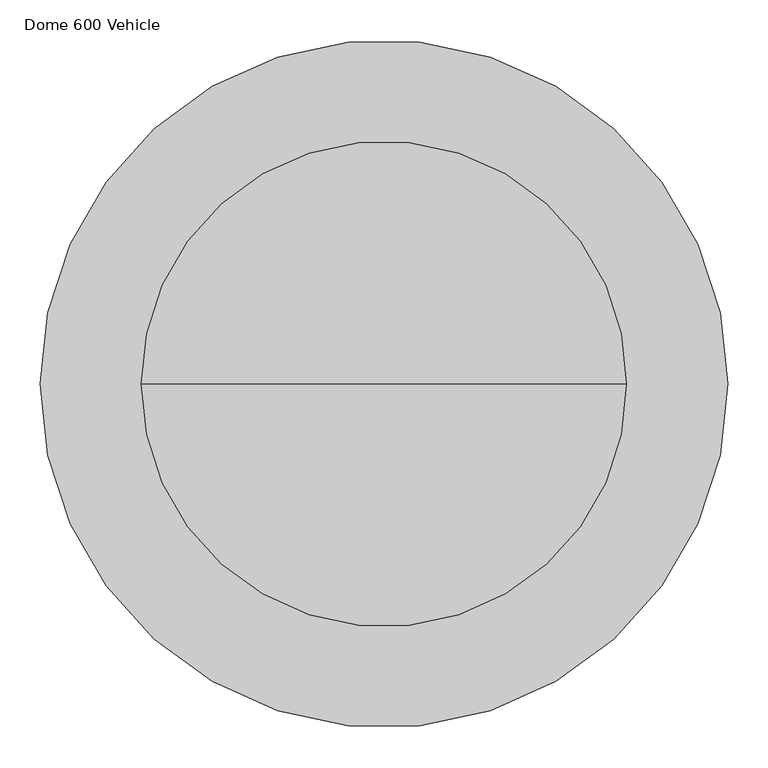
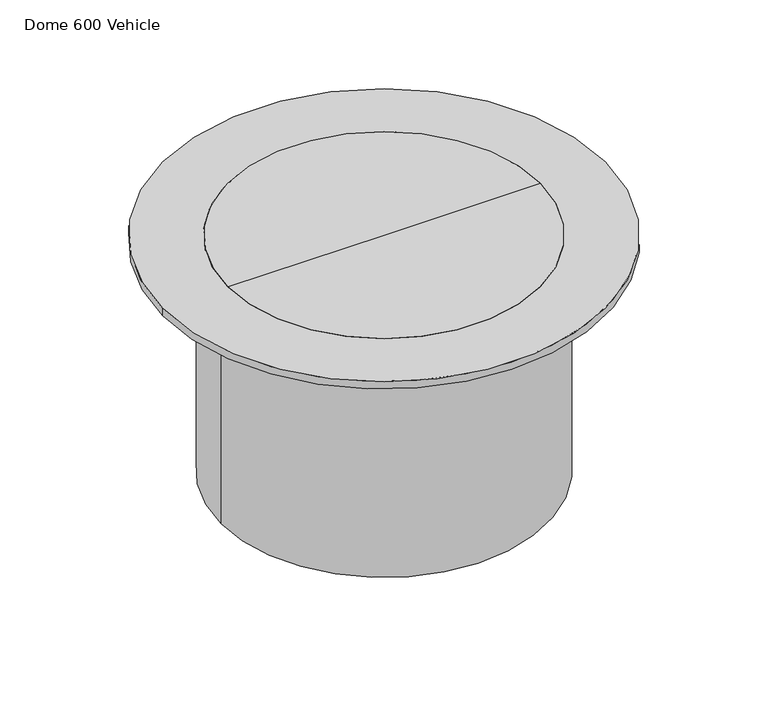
"""IFC4 building model written with IfcOpenShell, lengths in millimetres: proxy geometry, GRAF Tele Dome 600 Vehicle : Dome 600 Vehicle."""

from ifc_helpers import new_model, si_unit, point, frame, origin, origin_2d, place, context, project, spatial, polyline, circle_curve, trimmed, segment, composite_curve, outline, extrude, source, transform, mapped, element, save
from ifc_brep_helpers import plane_surface, cylinder_surface, advanced_brep


def dome_600_vehicle_504724ee(model_context):
    return source(origin(), model_context, "Body", "SolidModel", [
        advanced_brep(
        [(0.0, 0.0, -14.9500624), (-300.0, 0.0, -14.9500624), (300.0, 0.0, -14.9500624), (-300.0, 0.0, 0.0), (300.0, 0.0, 0.0), (0.0, 0.0, 0.0)],
        [
            (0, 1),
            (1, 2, circle_curve(frame((0.0, 0.0, -14.9500624), z_axis=(0.0, 0.0, -1.0), x_axis=(-1.0, 0.0, 0.0)), 300.0)),
            (2, 0),
            (2, 1, circle_curve(frame((0.0, 0.0, -14.9500624), z_axis=(0.0, 0.0, -1.0), x_axis=(-1.0, 0.0, 0.0)), 300.0)),
            (1, 3),
            (3, 4, circle_curve(frame((0.0, 0.0, 0.0), z_axis=(0.0, 0.0, -1.0), x_axis=(-1.0, 0.0, 0.0)), 300.0)),
            (4, 2),
            (4, 3, circle_curve(frame((0.0, 0.0, 0.0), z_axis=(0.0, 0.0, -1.0), x_axis=(-1.0, 0.0, 0.0)), 300.0)),
            (3, 5),
            (5, 4),
        ],
        [
            plane_surface(frame((0.0, 0.0, -14.9500624), z_axis=(0.0, 0.0, -1.0), x_axis=(-1.0, 0.0, 0.0))),
            cylinder_surface(frame((0.0, 0.0, -119.9500624), z_axis=(0.0, 0.0, -1.0), x_axis=(-1.0, 0.0, 0.0)), 300.0),
            plane_surface(frame((0.0, 0.0, 0.0), z_axis=(0.0, 0.0, 1.0), x_axis=(-1.0, 0.0, 0.0))),
        ],
        [
            (0, [[1, 2, 3]]),
            (0, [[-3, 4, -1]]),
            (1, [[-2, 5, 6, 7]]),
            (1, [[-4, -7, 8, -5]]),
            (2, [[-6, 9, 10]]),
            (2, [[-8, -10, -9]]),
        ],
    ),
        extrude(outline(composite_curve([segment(trimmed(circle_curve(origin_2d(), 313.0), [point((-313.0, 0.0))], [point((313.0, 0.0))], False, "CARTESIAN"), True, "CONTINUOUS"), segment(trimmed(circle_curve(origin_2d(), 313.0), [point((313.0, 0.0))], [point((-313.0, 0.0))], False, "CARTESIAN"), True, "CONTINUOUS")], self_intersect=False), holes=[composite_curve([segment(trimmed(circle_curve(origin_2d(), 300.0), [point((-300.0, 0.0))], [point((300.0, 0.0))], True, "CARTESIAN"), True, "CONTINUOUS"), segment(trimmed(circle_curve(origin_2d(), 300.0), [point((300.0, 0.0))], [point((-300.0, 0.0))], True, "CARTESIAN"), True, "CONTINUOUS")], self_intersect=False)]), frame((0.0, 0.0, -476.0), z_axis=(0.0, 0.0, 1.0), x_axis=(1.0, 0.0, 0.0)), (0.0, 0.0, 1.0), 461.0499376),
        extrude(outline(composite_curve([segment(trimmed(circle_curve(origin_2d(), 425.0), [point((-425.0, 0.0))], [point((425.0, 0.0))], False, "CARTESIAN"), True, "CONTINUOUS"), segment(trimmed(circle_curve(origin_2d(), 425.0), [point((425.0, 0.0))], [point((-425.0, 0.0))], False, "CARTESIAN"), True, "CONTINUOUS")], self_intersect=False), holes=[composite_curve([segment(trimmed(circle_curve(origin_2d(), 300.0), [point((-300.0, 0.0))], [point((300.0, 0.0))], True, "CARTESIAN"), True, "CONTINUOUS"), segment(trimmed(circle_curve(origin_2d(), 300.0), [point((300.0, 0.0))], [point((-300.0, 0.0))], True, "CARTESIAN"), True, "CONTINUOUS")], self_intersect=False)]), frame((0.0, 0.0, -14.9500624), z_axis=(0.0, 0.0, 1.0), x_axis=(1.0, 0.0, 0.0)), (0.0, 0.0, 1.0), 14.9500624),
        extrude(outline(composite_curve([segment(trimmed(circle_curve(origin_2d(), 313.0), [point((-260.5755532, -173.4052511))], [point((-208.7240033, -233.2451295))], True, "CARTESIAN"), True, "CONTINUOUS"), segment(polyline([(-208.7240033, -233.2451295), (-225.0974564, -252.1411016)]), True, "CONTINUOUS"), segment(trimmed(circle_curve(origin_2d(), 338.0), [point((-225.0974564, -252.1411016))], [point((-281.6093769, -186.9228688))], False, "CARTESIAN"), True, "CONTINUOUS"), segment(polyline([(-281.6093769, -186.9228688), (-260.5755532, -173.4052511)]), True, "CONTINUOUS")], self_intersect=False)), frame((0.0, 0.0, -40.0), z_axis=(0.0, 0.0, 1.0), x_axis=(1.0, 0.0, 0.0)), (0.0, 0.0, 1.0), 25.0499376),
        extrude(outline(composite_curve([segment(polyline([(-265.9819613, -164.9927157), (-287.015785, -178.5103334)]), True, "CONTINUOUS"), segment(trimmed(circle_curve(origin_2d(), 338.0), [point((-287.015785, -178.5103334))], [point((-322.8644761, -100.0126494))], False, "CARTESIAN"), True, "CONTINUOUS"), segment(polyline([(-322.8644761, -100.0126494), (-298.8743171, -92.9685031)]), True, "CONTINUOUS"), segment(trimmed(circle_curve(origin_2d(), 313.0), [point((-298.8743171, -92.9685031))], [point((-265.9819613, -164.9927157))], True, "CARTESIAN"), True, "CONTINUOUS")], self_intersect=False)), frame((0.0, 0.0, -40.0), z_axis=(0.0, 0.0, 1.0), x_axis=(1.0, 0.0, 0.0)), (0.0, 0.0, 1.0), 25.0499376),
        extrude(outline(composite_curve([segment(polyline([(-312.9600613, 5.0), (-337.9630157, 5.0)]), True, "CONTINUOUS"), segment(trimmed(circle_curve(origin_2d(), 338.0), [point((-337.9630157, 5.0))], [point((-325.6818017, 90.4177197))], False, "CARTESIAN"), True, "CONTINUOUS"), segment(polyline([(-325.6818017, 90.4177197), (-301.6916427, 83.3735734)]), True, "CONTINUOUS"), segment(trimmed(circle_curve(origin_2d(), 313.0), [point((-301.6916427, 83.3735734))], [point((-312.9600613, 5.0))], True, "CARTESIAN"), True, "CONTINUOUS")], self_intersect=False)), frame((0.0, 0.0, -40.0), z_axis=(0.0, 0.0, 1.0), x_axis=(1.0, 0.0, 0.0)), (0.0, 0.0, 1.0), 25.0499376),
        extrude(outline(composite_curve([segment(trimmed(circle_curve(origin_2d(), 313.0), [point((-312.9600613, -5.0))], [point((-301.6916427, -83.3735734))], True, "CARTESIAN"), True, "CONTINUOUS"), segment(polyline([(-301.6916427, -83.3735734), (-325.6818017, -90.4177197)]), True, "CONTINUOUS"), segment(trimmed(circle_curve(origin_2d(), 338.0), [point((-325.6818017, -90.4177197))], [point((-337.9630157, -5.0))], False, "CARTESIAN"), True, "CONTINUOUS"), segment(polyline([(-337.9630157, -5.0), (-312.9600613, -5.0)]), True, "CONTINUOUS")], self_intersect=False)), frame((0.0, 0.0, -40.0), z_axis=(0.0, 0.0, 1.0), x_axis=(1.0, 0.0, 0.0)), (0.0, 0.0, 1.0), 25.0499376),
        extrude(outline(composite_curve([segment(trimmed(circle_curve(origin_2d(), 313.0), [point((-265.9819613, 164.9927157))], [point((-298.8743171, 92.9685031))], True, "CARTESIAN"), True, "CONTINUOUS"), segment(polyline([(-298.8743171, 92.9685031), (-322.8644761, 100.0126494)]), True, "CONTINUOUS"), segment(trimmed(circle_curve(origin_2d(), 338.0), [point((-322.8644761, 100.0126494))], [point((-287.015785, 178.5103334))], False, "CARTESIAN"), True, "CONTINUOUS"), segment(polyline([(-287.015785, 178.5103334), (-265.9819613, 164.9927157)]), True, "CONTINUOUS")], self_intersect=False)), frame((0.0, 0.0, -40.0), z_axis=(0.0, 0.0, 1.0), x_axis=(1.0, 0.0, 0.0)), (0.0, 0.0, 1.0), 25.0499376),
        extrude(outline(composite_curve([segment(polyline([(-260.5755532, 173.4052511), (-281.6093769, 186.9228688)]), True, "CONTINUOUS"), segment(trimmed(circle_curve(origin_2d(), 338.0), [point((-281.6093769, 186.9228688))], [point((-225.0974564, 252.1411016))], False, "CARTESIAN"), True, "CONTINUOUS"), segment(polyline([(-225.0974564, 252.1411016), (-208.7240033, 233.2451295)]), True, "CONTINUOUS"), segment(trimmed(circle_curve(origin_2d(), 313.0), [point((-208.7240033, 233.2451295))], [point((-260.5755532, 173.4052511))], True, "CARTESIAN"), True, "CONTINUOUS")], self_intersect=False)), frame((0.0, 0.0, -40.0), z_axis=(0.0, 0.0, 1.0), x_axis=(1.0, 0.0, 0.0)), (0.0, 0.0, 1.0), 25.0499376),
        extrude(outline(composite_curve([segment(polyline([(208.7240033, 233.2451295), (225.0974564, 252.1411016)]), True, "CONTINUOUS"), segment(trimmed(circle_curve(origin_2d(), 338.0), [point((225.0974564, 252.1411016))], [point((281.6093769, 186.9228688))], False, "CARTESIAN"), True, "CONTINUOUS"), segment(polyline([(281.6093769, 186.9228688), (260.5755532, 173.4052511)]), True, "CONTINUOUS"), segment(trimmed(circle_curve(origin_2d(), 313.0), [point((260.5755532, 173.4052511))], [point((208.7240033, 233.2451295))], True, "CARTESIAN"), True, "CONTINUOUS")], self_intersect=False)), frame((0.0, 0.0, -40.0), z_axis=(0.0, 0.0, 1.0), x_axis=(1.0, 0.0, 0.0)), (0.0, 0.0, 1.0), 25.0499376),
        extrude(outline(composite_curve([segment(trimmed(circle_curve(origin_2d(), 313.0), [point((201.1665076, 239.7937368))], [point((134.5564679, 282.60141))], True, "CARTESIAN"), True, "CONTINUOUS"), segment(polyline([(134.5564679, 282.60141), (144.9430705, 305.3448973)]), True, "CONTINUOUS"), segment(trimmed(circle_curve(origin_2d(), 338.0), [point((144.9430705, 305.3448973))], [point((217.5399607, 258.689709))], False, "CARTESIAN"), True, "CONTINUOUS"), segment(polyline([(217.5399607, 258.689709), (201.1665076, 239.7937368)]), True, "CONTINUOUS")], self_intersect=False)), frame((0.0, 0.0, -40.0), z_axis=(0.0, 0.0, 1.0), x_axis=(1.0, 0.0, 0.0)), (0.0, 0.0, 1.0), 25.0499376),
        extrude(outline(composite_curve([segment(trimmed(circle_curve(origin_2d(), 313.0), [point((39.5897533, 310.4861534))], [point((-39.5897533, 310.4861534))], True, "CARTESIAN"), True, "CONTINUOUS"), segment(polyline([(-39.5897533, 310.4861534), (-43.1480447, 335.2346137)]), True, "CONTINUOUS"), segment(trimmed(circle_curve(origin_2d(), 338.0), [point((-43.1480447, 335.2346137))], [point((43.1480447, 335.2346137))], False, "CARTESIAN"), True, "CONTINUOUS"), segment(polyline([(43.1480447, 335.2346137), (39.5897533, 310.4861534)]), True, "CONTINUOUS")], self_intersect=False)), frame((0.0, 0.0, -40.0), z_axis=(0.0, 0.0, 1.0), x_axis=(1.0, 0.0, 0.0)), (0.0, 0.0, 1.0), 25.0499376),
        extrude(outline(composite_curve([segment(polyline([(49.4879677, 309.063005), (53.0462591, 333.8114653)]), True, "CONTINUOUS"), segment(trimmed(circle_curve(origin_2d(), 338.0), [point((53.0462591, 333.8114653))], [point((135.8467506, 309.4990474))], False, "CARTESIAN"), True, "CONTINUOUS"), segment(polyline([(135.8467506, 309.4990474), (125.460148, 286.7555601)]), True, "CONTINUOUS"), segment(trimmed(circle_curve(origin_2d(), 313.0), [point((125.460148, 286.7555601))], [point((49.4879677, 309.063005))], True, "CARTESIAN"), True, "CONTINUOUS")], self_intersect=False)), frame((0.0, 0.0, -40.0), z_axis=(0.0, 0.0, 1.0), x_axis=(1.0, 0.0, 0.0)), (0.0, 0.0, 1.0), 25.0499376),
        extrude(outline(composite_curve([segment(polyline([(-125.460148, 286.7555601), (-135.8467506, 309.4990474)]), True, "CONTINUOUS"), segment(trimmed(circle_curve(origin_2d(), 338.0), [point((-135.8467506, 309.4990474))], [point((-53.0462591, 333.8114653))], False, "CARTESIAN"), True, "CONTINUOUS"), segment(polyline([(-53.0462591, 333.8114653), (-49.4879677, 309.063005)]), True, "CONTINUOUS"), segment(trimmed(circle_curve(origin_2d(), 313.0), [point((-49.4879677, 309.063005))], [point((-125.460148, 286.7555601))], True, "CARTESIAN"), True, "CONTINUOUS")], self_intersect=False)), frame((0.0, 0.0, -40.0), z_axis=(0.0, 0.0, 1.0), x_axis=(1.0, 0.0, 0.0)), (0.0, 0.0, 1.0), 25.0499376),
        extrude(outline(composite_curve([segment(trimmed(circle_curve(origin_2d(), 313.0), [point((-134.5564679, 282.60141))], [point((-201.1665076, 239.7937368))], True, "CARTESIAN"), True, "CONTINUOUS"), segment(polyline([(-201.1665076, 239.7937368), (-217.5399607, 258.689709)]), True, "CONTINUOUS"), segment(trimmed(circle_curve(origin_2d(), 338.0), [point((-217.5399607, 258.689709))], [point((-144.9430705, 305.3448973))], False, "CARTESIAN"), True, "CONTINUOUS"), segment(polyline([(-144.9430705, 305.3448973), (-134.5564679, 282.60141)]), True, "CONTINUOUS")], self_intersect=False)), frame((0.0, 0.0, -40.0), z_axis=(0.0, 0.0, 1.0), x_axis=(1.0, 0.0, 0.0)), (0.0, 0.0, 1.0), 25.0499376),
        extrude(outline(composite_curve([segment(trimmed(circle_curve(origin_2d(), 313.0), [point((298.8743171, 92.9685031))], [point((265.9819613, 164.9927157))], True, "CARTESIAN"), True, "CONTINUOUS"), segment(polyline([(265.9819613, 164.9927157), (287.015785, 178.5103334)]), True, "CONTINUOUS"), segment(trimmed(circle_curve(origin_2d(), 338.0), [point((287.015785, 178.5103334))], [point((322.8644761, 100.0126494))], False, "CARTESIAN"), True, "CONTINUOUS"), segment(polyline([(322.8644761, 100.0126494), (298.8743171, 92.9685031)]), True, "CONTINUOUS")], self_intersect=False)), frame((0.0, 0.0, -40.0), z_axis=(0.0, 0.0, 1.0), x_axis=(1.0, 0.0, 0.0)), (0.0, 0.0, 1.0), 25.0499376),
        extrude(outline(composite_curve([segment(polyline([(301.6916427, 83.3735734), (325.6818017, 90.4177197)]), True, "CONTINUOUS"), segment(trimmed(circle_curve(origin_2d(), 338.0), [point((325.6818017, 90.4177197))], [point((337.9630157, 5.0))], False, "CARTESIAN"), True, "CONTINUOUS"), segment(polyline([(337.9630157, 5.0), (312.9600613, 5.0)]), True, "CONTINUOUS"), segment(trimmed(circle_curve(origin_2d(), 313.0), [point((312.9600613, 5.0))], [point((301.6916427, 83.3735734))], True, "CARTESIAN"), True, "CONTINUOUS")], self_intersect=False)), frame((0.0, 0.0, -40.0), z_axis=(0.0, 0.0, 1.0), x_axis=(1.0, 0.0, 0.0)), (0.0, 0.0, 1.0), 25.0499376),
        extrude(outline(composite_curve([segment(polyline([(298.8743171, -92.9685031), (322.8644761, -100.0126494)]), True, "CONTINUOUS"), segment(trimmed(circle_curve(origin_2d(), 338.0), [point((322.8644761, -100.0126494))], [point((287.015785, -178.5103334))], False, "CARTESIAN"), True, "CONTINUOUS"), segment(polyline([(287.015785, -178.5103334), (265.9819613, -164.9927157)]), True, "CONTINUOUS"), segment(trimmed(circle_curve(origin_2d(), 313.0), [point((265.9819613, -164.9927157))], [point((298.8743171, -92.9685031))], True, "CARTESIAN"), True, "CONTINUOUS")], self_intersect=False)), frame((0.0, 0.0, -40.0), z_axis=(0.0, 0.0, 1.0), x_axis=(1.0, 0.0, 0.0)), (0.0, 0.0, 1.0), 25.0499376),
        extrude(outline(composite_curve([segment(trimmed(circle_curve(origin_2d(), 313.0), [point((301.6916427, -83.3735734))], [point((312.9600613, -5.0))], True, "CARTESIAN"), True, "CONTINUOUS"), segment(polyline([(312.9600613, -5.0), (337.9630157, -5.0)]), True, "CONTINUOUS"), segment(trimmed(circle_curve(origin_2d(), 338.0), [point((337.9630157, -5.0))], [point((325.6818017, -90.4177197))], False, "CARTESIAN"), True, "CONTINUOUS"), segment(polyline([(325.6818017, -90.4177197), (301.6916427, -83.3735734)]), True, "CONTINUOUS")], self_intersect=False)), frame((0.0, 0.0, -40.0), z_axis=(0.0, 0.0, 1.0), x_axis=(1.0, 0.0, 0.0)), (0.0, 0.0, 1.0), 25.0499376),
        extrude(outline(composite_curve([segment(trimmed(circle_curve(origin_2d(), 313.0), [point((208.7240033, -233.2451295))], [point((260.5755532, -173.4052511))], True, "CARTESIAN"), True, "CONTINUOUS"), segment(polyline([(260.5755532, -173.4052511), (281.6093769, -186.9228688)]), True, "CONTINUOUS"), segment(trimmed(circle_curve(origin_2d(), 338.0), [point((281.6093769, -186.9228688))], [point((225.0974564, -252.1411016))], False, "CARTESIAN"), True, "CONTINUOUS"), segment(polyline([(225.0974564, -252.1411016), (208.7240033, -233.2451295)]), True, "CONTINUOUS")], self_intersect=False)), frame((0.0, 0.0, -40.0), z_axis=(0.0, 0.0, 1.0), x_axis=(1.0, 0.0, 0.0)), (0.0, 0.0, 1.0), 25.0499376),
        extrude(outline(composite_curve([segment(polyline([(201.1665076, -239.7937368), (217.5399607, -258.689709)]), True, "CONTINUOUS"), segment(trimmed(circle_curve(origin_2d(), 338.0), [point((217.5399607, -258.689709))], [point((144.9430705, -305.3448973))], False, "CARTESIAN"), True, "CONTINUOUS"), segment(polyline([(144.9430705, -305.3448973), (134.5564679, -282.60141)]), True, "CONTINUOUS"), segment(trimmed(circle_curve(origin_2d(), 313.0), [point((134.5564679, -282.60141))], [point((201.1665076, -239.7937368))], True, "CARTESIAN"), True, "CONTINUOUS")], self_intersect=False)), frame((0.0, 0.0, -40.0), z_axis=(0.0, 0.0, 1.0), x_axis=(1.0, 0.0, 0.0)), (0.0, 0.0, 1.0), 25.0499376),
        extrude(outline(composite_curve([segment(trimmed(circle_curve(origin_2d(), 313.0), [point((-125.460148, -286.7555601))], [point((-49.4879677, -309.063005))], True, "CARTESIAN"), True, "CONTINUOUS"), segment(polyline([(-49.4879677, -309.063005), (-53.0462591, -333.8114653)]), True, "CONTINUOUS"), segment(trimmed(circle_curve(origin_2d(), 338.0), [point((-53.0462591, -333.8114653))], [point((-135.8467506, -309.4990474))], False, "CARTESIAN"), True, "CONTINUOUS"), segment(polyline([(-135.8467506, -309.4990474), (-125.460148, -286.7555601)]), True, "CONTINUOUS")], self_intersect=False)), frame((0.0, 0.0, -40.0), z_axis=(0.0, 0.0, 1.0), x_axis=(1.0, 0.0, 0.0)), (0.0, 0.0, 1.0), 25.0499376),
        extrude(outline(composite_curve([segment(polyline([(-134.5564679, -282.60141), (-144.9430705, -305.3448973)]), True, "CONTINUOUS"), segment(trimmed(circle_curve(origin_2d(), 338.0), [point((-144.9430705, -305.3448973))], [point((-217.5399607, -258.689709))], False, "CARTESIAN"), True, "CONTINUOUS"), segment(polyline([(-217.5399607, -258.689709), (-201.1665076, -239.7937368)]), True, "CONTINUOUS"), segment(trimmed(circle_curve(origin_2d(), 313.0), [point((-201.1665076, -239.7937368))], [point((-134.5564679, -282.60141))], True, "CARTESIAN"), True, "CONTINUOUS")], self_intersect=False)), frame((0.0, 0.0, -40.0), z_axis=(0.0, 0.0, 1.0), x_axis=(1.0, 0.0, 0.0)), (0.0, 0.0, 1.0), 25.0499376),
        extrude(outline(composite_curve([segment(polyline([(39.5897533, -310.4861534), (43.1480447, -335.2346137)]), True, "CONTINUOUS"), segment(trimmed(circle_curve(origin_2d(), 338.0), [point((43.1480447, -335.2346137))], [point((-43.1480447, -335.2346137))], False, "CARTESIAN"), True, "CONTINUOUS"), segment(polyline([(-43.1480447, -335.2346137), (-39.5897533, -310.4861534)]), True, "CONTINUOUS"), segment(trimmed(circle_curve(origin_2d(), 313.0), [point((-39.5897533, -310.4861534))], [point((39.5897533, -310.4861534))], True, "CARTESIAN"), True, "CONTINUOUS")], self_intersect=False)), frame((0.0, 0.0, -40.0), z_axis=(0.0, 0.0, 1.0), x_axis=(1.0, 0.0, 0.0)), (0.0, 0.0, 1.0), 25.0499376),
        extrude(outline(composite_curve([segment(trimmed(circle_curve(origin_2d(), 313.0), [point((49.4879677, -309.063005))], [point((125.460148, -286.7555601))], True, "CARTESIAN"), True, "CONTINUOUS"), segment(polyline([(125.460148, -286.7555601), (135.8467506, -309.4990474)]), True, "CONTINUOUS"), segment(trimmed(circle_curve(origin_2d(), 338.0), [point((135.8467506, -309.4990474))], [point((53.0462591, -333.8114653))], False, "CARTESIAN"), True, "CONTINUOUS"), segment(polyline([(53.0462591, -333.8114653), (49.4879677, -309.063005)]), True, "CONTINUOUS")], self_intersect=False)), frame((0.0, 0.0, -40.0), z_axis=(0.0, 0.0, 1.0), x_axis=(1.0, 0.0, 0.0)), (0.0, 0.0, 1.0), 25.0499376),
        extrude(outline(polyline([(-42.0990731, 0.0), (22.2616361, 0.0), (-42.0990731, -100.6257242), (-42.0990731, 0.0)])), frame((125.4767391, -286.7918896, -57.0491355), z_axis=(0.9096319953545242, 0.4154150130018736, 0.0), x_axis=(0.0, 0.0, -1.0)), (0.0, 0.0, 1.0), 10.0),
        extrude(outline(polyline([(-42.0990731, 0.0), (22.2616361, 0.0), (-42.0990731, -100.6257243), (-42.0990731, 0.0)])), frame((39.5954372, -310.5256855, -57.0491355), z_axis=(0.9898214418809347, 0.14231483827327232, 0.0), x_axis=(0.0, 0.0, -1.0)), (0.0, 0.0, 1.0), 10.0),
        extrude(outline(polyline([(0.0, 0.0), (0.0, -64.3607092), (-100.6257242, 0.0), (0.0, 0.0)])), frame((201.1926619, -239.8239204, -14.9500624), z_axis=(0.7557495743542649, 0.6548607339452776, 0.0), x_axis=(-0.6548607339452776, 0.7557495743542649, 0.0)), (0.0, 0.0, 1.0), 10.0),
        extrude(outline(polyline([(0.0, 0.0), (0.0, -64.3607092), (-100.6257242, 0.0), (0.0, 0.0)])), frame((260.6091517, -173.4268435, -14.9500624), z_axis=(0.5406408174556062, 0.8412535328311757, 0.0), x_axis=(-0.8412535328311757, 0.5406408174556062, 0.0)), (0.0, 0.0, 1.0), 10.0),
        extrude(outline(polyline([(0.0, 0.0), (0.0, -64.3607092), (-100.6257241, 0.0), (0.0, 0.0)])), frame((298.912638, -92.9797552, -14.9500624), z_axis=(0.2817325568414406, 0.9594929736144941, 0.0), x_axis=(-0.9594929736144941, 0.2817325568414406, 0.0)), (0.0, 0.0, 1.0), 10.0),
        extrude(outline(polyline([(0.0, 0.0), (100.6257242, 0.0), (0.0, -64.3607092), (0.0, 0.0)])), frame((-125.4767391, -286.7918896, -14.9500624), z_axis=(-0.9096319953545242, 0.41541501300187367, 0.0), x_axis=(-0.41541501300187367, -0.9096319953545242, 0.0)), (0.0, 0.0, 1.0), 10.0),
        extrude(outline(polyline([(0.0, 0.0), (100.6257243, 0.0), (0.0, -64.3607092), (0.0, 0.0)])), frame((-39.5954372, -310.5256855, -14.9500624), z_axis=(-0.9898214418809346, 0.14231483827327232, 0.0), x_axis=(-0.14231483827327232, -0.9898214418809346, 0.0)), (0.0, 0.0, 1.0), 10.0),
        extrude(outline(polyline([(42.0990731, 0.0), (42.0990731, -100.6257242), (-22.2616361, 0.0), (42.0990731, 0.0)])), frame((-201.1926619, -239.8239204, -57.0491355), z_axis=(-0.7557495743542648, 0.6548607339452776, 0.0), x_axis=(0.0, 0.0, 1.0)), (0.0, 0.0, 1.0), 10.0),
        extrude(outline(polyline([(42.0990731, 0.0), (42.0990731, -100.6257242), (-22.2616361, 0.0), (42.0990731, 0.0)])), frame((-260.6091517, -173.4268435, -57.0491355), z_axis=(-0.5406408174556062, 0.8412535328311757, 0.0), x_axis=(0.0, 0.0, 1.0)), (0.0, 0.0, 1.0), 10.0),
        extrude(outline(polyline([(42.0990731, 0.0), (42.0990731, -100.6257241), (-22.2616361, 0.0), (42.0990731, 0.0)])), frame((-298.912638, -92.9797552, -57.0491355), z_axis=(-0.2817325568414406, 0.9594929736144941, 0.0), x_axis=(0.0, 0.0, 1.0)), (0.0, 0.0, 1.0), 10.0),
        extrude(outline(polyline([(0.0, 0.0), (0.0, -64.3607092), (-100.6257242, 0.0), (0.0, 0.0)])), frame((134.573059, 282.6377395, -14.9500624), z_axis=(-0.9096319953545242, 0.41541501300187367, 0.0), x_axis=(-0.41541501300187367, -0.9096319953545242, 0.0)), (0.0, 0.0, 1.0), 10.0),
        extrude(outline(polyline([(0.0, 0.0), (0.0, -64.3607092), (-100.6257243, 0.0), (0.0, 0.0)])), frame((49.4936516, 309.1025371, -14.9500624), z_axis=(-0.9898214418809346, 0.14231483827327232, 0.0), x_axis=(-0.14231483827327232, -0.9898214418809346, 0.0)), (0.0, 0.0, 1.0), 10.0),
        extrude(outline(polyline([(-42.0990731, 0.0), (22.2616361, 0.0), (-42.0990731, -100.6257242), (-42.0990731, 0.0)])), frame((208.7501576, 233.2753131, -57.0491355), z_axis=(-0.7557495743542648, 0.6548607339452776, 0.0), x_axis=(0.0, 0.0, -1.0)), (0.0, 0.0, 1.0), 10.0),
        extrude(outline(polyline([(-42.0990731, 0.0), (22.2616361, 0.0), (-42.0990731, -100.6257242), (-42.0990731, 0.0)])), frame((266.0155599, 165.0143082, -57.0491355), z_axis=(-0.5406408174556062, 0.8412535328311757, 0.0), x_axis=(0.0, 0.0, -1.0)), (0.0, 0.0, 1.0), 10.0),
        extrude(outline(polyline([(-42.0990731, 0.0), (22.2616361, 0.0), (-42.0990731, -100.6257243), (-42.0990731, 0.0)])), frame((301.7299635, 83.3848254, -57.0491355), z_axis=(-0.2817325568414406, 0.9594929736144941, 0.0), x_axis=(0.0, 0.0, -1.0)), (0.0, 0.0, 1.0), 10.0),
        extrude(outline(polyline([(-14.9500624, 313.0), (-79.3107716, 313.0), (-14.9500624, 413.6257242), (-14.9500624, 313.0)])), frame((0.0, -5.0, 0.0), z_axis=(0.0, 1.0, 0.0), x_axis=(0.0, 0.0, 1.0)), (0.0, 0.0, 1.0), 10.0),
        extrude(outline(polyline([(42.0990731, 0.0), (42.0990731, -100.6257242), (-22.2616361, 0.0), (42.0990731, 0.0)])), frame((-134.573059, 282.6377395, -57.0491355), z_axis=(0.9096319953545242, 0.4154150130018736, 0.0), x_axis=(0.0, 0.0, 1.0)), (0.0, 0.0, 1.0), 10.0),
        extrude(outline(polyline([(42.0990731, 0.0), (42.0990731, -100.6257243), (-22.2616361, 0.0), (42.0990731, 0.0)])), frame((-49.4936516, 309.1025371, -57.0491355), z_axis=(0.9898214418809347, 0.14231483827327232, 0.0), x_axis=(0.0, 0.0, 1.0)), (0.0, 0.0, 1.0), 10.0),
        extrude(outline(polyline([(0.0, 0.0), (100.6257242, 0.0), (0.0, -64.3607092), (0.0, 0.0)])), frame((-208.7501576, 233.2753131, -14.9500624), z_axis=(0.7557495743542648, 0.6548607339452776, 0.0), x_axis=(-0.6548607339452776, 0.7557495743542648, 0.0)), (0.0, 0.0, 1.0), 10.0),
        extrude(outline(polyline([(0.0, 0.0), (100.6257242, 0.0), (0.0, -64.3607092), (0.0, 0.0)])), frame((-266.0155599, 165.0143082, -14.9500624), z_axis=(0.5406408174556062, 0.8412535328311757, 0.0), x_axis=(-0.8412535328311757, 0.5406408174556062, 0.0)), (0.0, 0.0, 1.0), 10.0),
        extrude(outline(polyline([(0.0, 0.0), (100.6257243, 0.0), (0.0, -64.3607092), (0.0, 0.0)])), frame((-301.7299635, 83.3848254, -14.9500624), z_axis=(0.2817325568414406, 0.9594929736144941, 0.0), x_axis=(-0.9594929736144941, 0.2817325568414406, 0.0)), (0.0, 0.0, 1.0), 10.0),
        extrude(outline(polyline([(-14.9500624, -313.0), (-14.9500624, -413.6257242), (-79.3107716, -313.0), (-14.9500624, -313.0)])), frame((0.0, -5.0, 0.0), z_axis=(0.0, 1.0, 0.0), x_axis=(0.0, 0.0, 1.0)), (0.0, 0.0, 1.0), 10.0),
    ])


if __name__ == "__main__":
    model = new_model("IFC4")
    model_context = context("Model", 3, world=origin())
    ifc_project = project(units=[si_unit("LENGTHUNIT", "METRE", prefix="MILLI")], contexts=[model_context])
    site = spatial("IfcSite", under=ifc_project)
    building = spatial("IfcBuilding", under=site)
    placement = place(None, origin())
    dome_600_vehicle_shape = dome_600_vehicle_504724ee(model_context)
    element("IfcBuildingElementProxy", 1, Name="GRAF Tele Dome 600 Vehicle : Dome 600 Vehicle", ObjectType="GRAF Tele Dome 600 Vehicle : Dome 600 Vehicle", at=placement, inside=building, context=model_context, shape_type="MappedRepresentation", body=[
        mapped(dome_600_vehicle_shape, transform((0.0, 0.0, 0.0), x_axis=(1.0, 0.0, 0.0), y_axis=(0.0, 1.0, 0.0), z_axis=(0.0, 0.0, 1.0))),
    ])
    save(model, "model.ifc")
